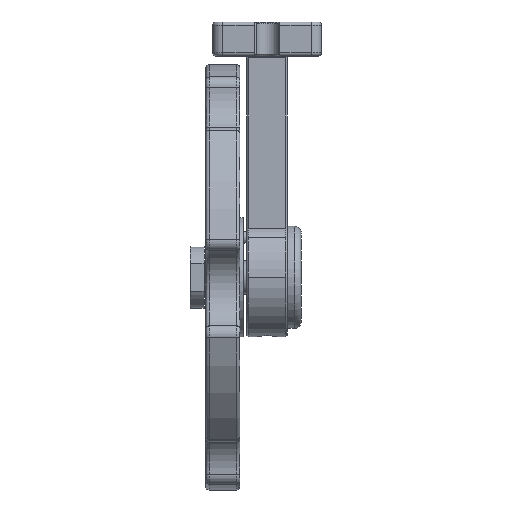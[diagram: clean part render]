
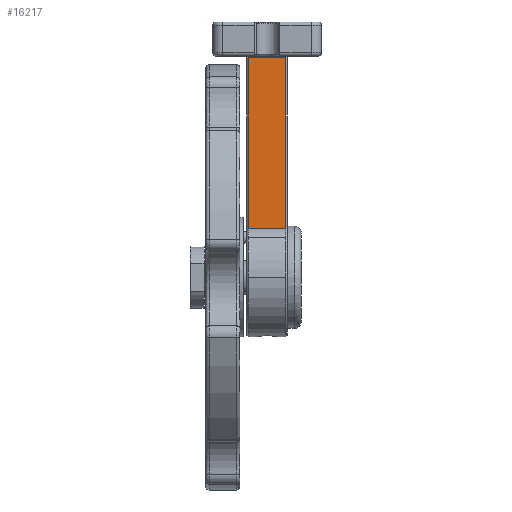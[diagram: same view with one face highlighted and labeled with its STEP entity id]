
A CAD part, left-side view. The second image highlights one B-rep face of the part: STEP entity #16217.
In plain terms, the highlighted planar face has unit normal (-1, 0, 0).
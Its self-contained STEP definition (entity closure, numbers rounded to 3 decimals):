
#3 = PLANE ( 'NONE',  #20832 ) ;
#826 = EDGE_LOOP ( 'NONE', ( #17819, #12841, #15538, #14735 ) ) ;
#1008 = VECTOR ( 'NONE', #18796, 1000. ) ;
#1098 = CARTESIAN_POINT ( 'NONE',  ( -12., -5.5, -0.5 ) ) ;
#1355 = LINE ( 'NONE', #12558, #1008 ) ;
#2478 = CARTESIAN_POINT ( 'NONE',  ( -12., -6., -0.5 ) ) ;
#3673 = CARTESIAN_POINT ( 'NONE',  ( -12., -6., -50.639 ) ) ;
#3856 = DIRECTION ( 'NONE',  ( 0., 0., -1. ) ) ;
#4282 = VERTEX_POINT ( 'NONE', #11853 ) ;
#4372 = LINE ( 'NONE', #2478, #12831 ) ;
#6752 = EDGE_CURVE ( 'NONE', #4282, #17501, #16779, .T. ) ;
#7183 = EDGE_CURVE ( 'NONE', #19726, #4282, #18334, .T. ) ;
#7586 = VECTOR ( 'NONE', #11915, 1000. ) ;
#9418 = DIRECTION ( 'NONE',  ( 1., 0., 0. ) ) ;
#11251 = EDGE_CURVE ( 'NONE', #17501, #17626, #1355, .T. ) ;
#11853 = CARTESIAN_POINT ( 'NONE',  ( -12., 5.5, -50.639 ) ) ;
#11915 = DIRECTION ( 'NONE',  ( 0., -1., 0. ) ) ;
#12068 = EDGE_CURVE ( 'NONE', #17626, #19726, #4372, .T. ) ;
#12558 = CARTESIAN_POINT ( 'NONE',  ( -12., -5.5, 0. ) ) ;
#12831 = VECTOR ( 'NONE', #15360, 1000. ) ;
#12841 = ORIENTED_EDGE ( 'NONE', *, *, #7183, .T. ) ;
#14725 = CARTESIAN_POINT ( 'NONE',  ( -12., 5.5, 0. ) ) ;
#14735 = ORIENTED_EDGE ( 'NONE', *, *, #11251, .T. ) ;
#15360 = DIRECTION ( 'NONE',  ( 0., 1., 0. ) ) ;
#15538 = ORIENTED_EDGE ( 'NONE', *, *, #6752, .T. ) ;
#15860 = DIRECTION ( 'NONE',  ( 0., 1., 0. ) ) ;
#15969 = FACE_OUTER_BOUND ( 'NONE', #826, .T. ) ;
#16217 = ADVANCED_FACE ( 'NONE', ( #15969 ), #3, .F. ) ;
#16779 = LINE ( 'NONE', #3673, #7586 ) ;
#17501 = VERTEX_POINT ( 'NONE', #20421 ) ;
#17626 = VERTEX_POINT ( 'NONE', #1098 ) ;
#17819 = ORIENTED_EDGE ( 'NONE', *, *, #12068, .T. ) ;
#18334 = LINE ( 'NONE', #14725, #20023 ) ;
#18796 = DIRECTION ( 'NONE',  ( 0., 0., 1. ) ) ;
#18934 = CARTESIAN_POINT ( 'NONE',  ( -12., -6., 0. ) ) ;
#19726 = VERTEX_POINT ( 'NONE', #19976 ) ;
#19976 = CARTESIAN_POINT ( 'NONE',  ( -12., 5.5, -0.5 ) ) ;
#20023 = VECTOR ( 'NONE', #3856, 1000. ) ;
#20421 = CARTESIAN_POINT ( 'NONE',  ( -12., -5.5, -50.639 ) ) ;
#20832 = AXIS2_PLACEMENT_3D ( 'NONE', #18934, #9418, #15860 ) ;
